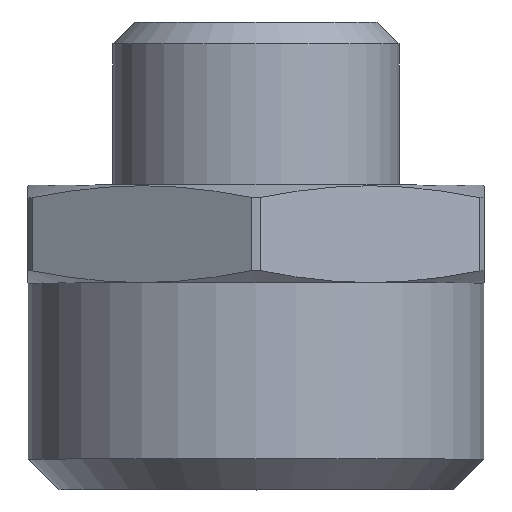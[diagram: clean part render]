
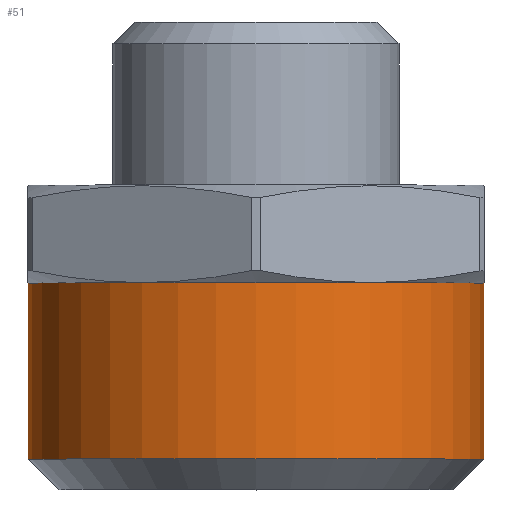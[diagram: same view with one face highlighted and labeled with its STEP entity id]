
A CAD part, top view. The second image highlights one B-rep face of the part: STEP entity #51.
In plain terms, the highlighted cylindrical face has radius 10.477 mm (diameter 20.955 mm), a full revolution.
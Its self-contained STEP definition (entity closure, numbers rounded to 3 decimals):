
#51=ADVANCED_FACE('',(#134,#136),#138,.T.);
#134=FACE_OUTER_BOUND('',#135,.T.);
#135=EDGE_LOOP('',(#304));
#136=FACE_OUTER_BOUND('',#137,.T.);
#137=EDGE_LOOP('',(#305));
#138=CYLINDRICAL_SURFACE('',#139,10.478);
#139=AXIS2_PLACEMENT_3D('',#140,#141,#142);
#140=CARTESIAN_POINT('',(0.,-2.25,0.));
#141=DIRECTION('',(0.,-1.,0.));
#142=DIRECTION('',(1.,0.,0.));
#304=ORIENTED_EDGE('',*,*,#405,.T.);
#305=ORIENTED_EDGE('',*,*,#403,.F.);
#403=EDGE_CURVE('',#464,#464,#465,.T.);
#405=EDGE_CURVE('',#468,#468,#469,.T.);
#464=VERTEX_POINT('',#583);
#465=CIRCLE('',#584,10.478);
#468=VERTEX_POINT('',#593);
#469=CIRCLE('',#594,10.478);
#583=CARTESIAN_POINT('',(10.478,-10.35,0.));
#584=AXIS2_PLACEMENT_3D('',#585,#586,#587);
#585=CARTESIAN_POINT('',(0.,-10.35,0.));
#586=DIRECTION('',(0.,-1.,0.));
#587=DIRECTION('',(1.,0.,0.));
#593=CARTESIAN_POINT('',(10.478,-2.25,0.));
#594=AXIS2_PLACEMENT_3D('',#595,#596,#597);
#595=CARTESIAN_POINT('',(0.,-2.25,0.));
#596=DIRECTION('',(0.,-1.,0.));
#597=DIRECTION('',(1.,0.,0.));
